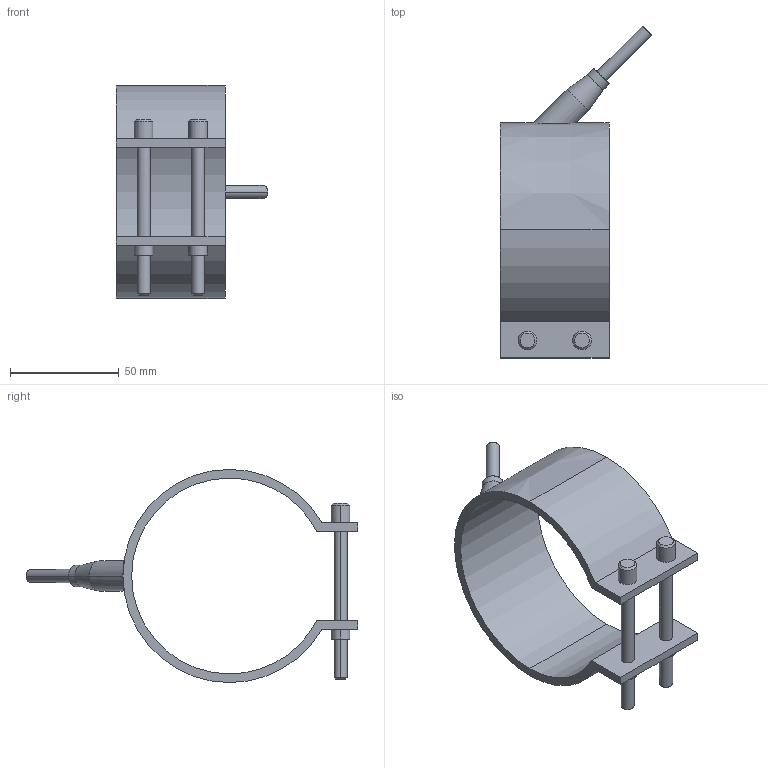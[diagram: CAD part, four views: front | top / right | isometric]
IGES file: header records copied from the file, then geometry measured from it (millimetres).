
Start section: START RECORD GO HERE.
Global section: file name: 29090050.igs; native system: DASSAULT SYSTEMES CATIA V5 R20 - www.3ds.com; preprocessor: CATIA Version 5 Release 20 ; author: Utente; organization: NB04-ASUS; date: 20210329.195832; units: millimetre
Bounding box: 69.55 x 152.55 x 98 mm (x, y, z)
Surface area: 35517.5 mm2 (no closed solid volume)
Topology: 0 solids, 0 shells, 54 faces, 246 edges, 246 vertices
Faces by surface type: revolution 38, plane 16
